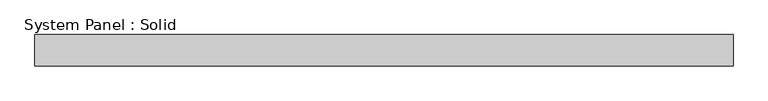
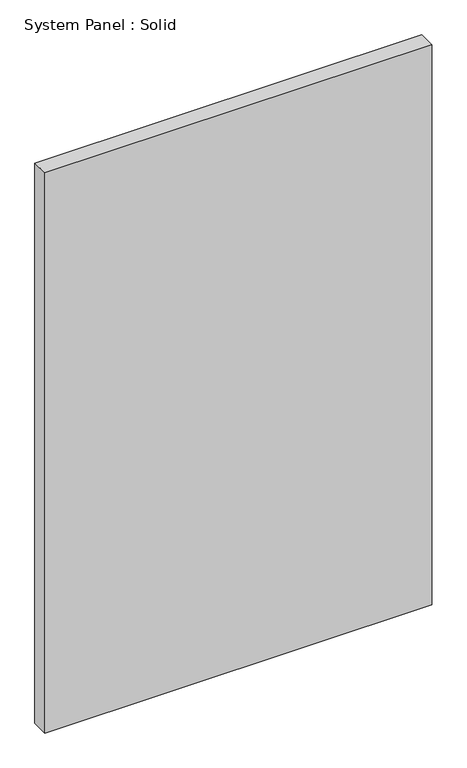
"""IFC4 building model written with IfcOpenShell, lengths in millimetres: plate geometry, System Panel : Solid."""

from ifc_helpers import new_model, si_unit, origin, origin_with_axes, place, context, project, spatial, polyline, outline, extrude, source, transform, mapped, element, save


def system_panel_solid_9531ad7b(model_context):
    return source(origin(), model_context, "Body", "SweptSolid", [
        extrude(outline(polyline([(707.3194444, -19.05), (-707.3194444, -19.05), (-707.3194444, 44.45), (707.3194444, 44.45), (707.3194444, -19.05)])), origin_with_axes(), (0.0, 0.0, 1.0), 2165.35),
    ])


if __name__ == "__main__":
    model = new_model("IFC4")
    model_context = context("Model", 3, world=origin())
    ifc_project = project(units=[si_unit("LENGTHUNIT", "METRE", prefix="MILLI")], contexts=[model_context])
    site = spatial("IfcSite", under=ifc_project)
    building = spatial("IfcBuilding", under=site)
    placement = place(None, origin())
    system_panel_solid_shape = system_panel_solid_9531ad7b(model_context)
    element("IfcPlate", 1, ObjectType="System Panel : Solid", at=placement, inside=building, context=model_context, shape_type="MappedRepresentation", body=[
        mapped(system_panel_solid_shape, transform((0.0, 0.0, 0.0), x_axis=(1.0, 0.0, 0.0), y_axis=(0.0, 1.0, 0.0), z_axis=(0.0, 0.0, 1.0))),
    ])
    save(model, "model.ifc")
